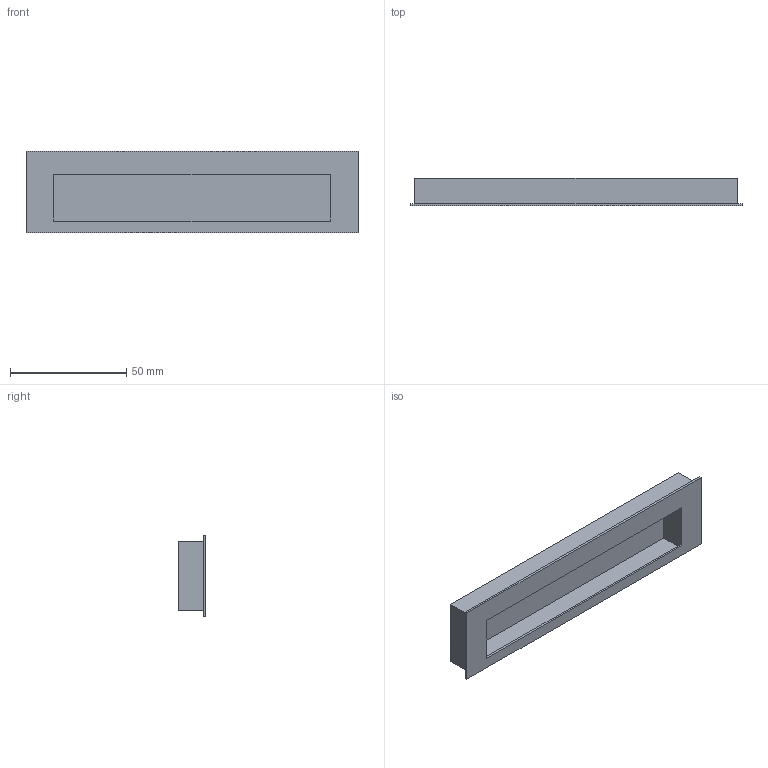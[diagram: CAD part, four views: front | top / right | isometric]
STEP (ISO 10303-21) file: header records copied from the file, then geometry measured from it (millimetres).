
FILE_DESCRIPTION( ( '' ), '1' );
FILE_NAME( 'C:/Documents and Settings/Sachin/Desktop/Sheet 10_1/stp/ 9071071.stp', '2013-10-22T05:54:59', ( '' ), ( '' ), ' ', ' ', ' ' );
FILE_SCHEMA( ( 'CONFIG_CONTROL_DESIGN' ) );
Length unit declared in the file: millimetre
Products named in the file (1): 1
Bounding box: 143 x 12 x 35 mm (x, y, z)
Volume: 14973.9 mm3; surface area: 19407.1 mm2
Topology: 1 solids, 1 shells, 26 faces, 60 edges, 40 vertices
Faces by surface type: plane 22, cylinder 4
Entity records: 776 total; most frequent: CARTESIAN_POINT 127, DIRECTION 122, ORIENTED_EDGE 120, EDGE_CURVE 60, LINE 52, VECTOR 52, VERTEX_POINT 40, AXIS2_PLACEMENT_3D 35
